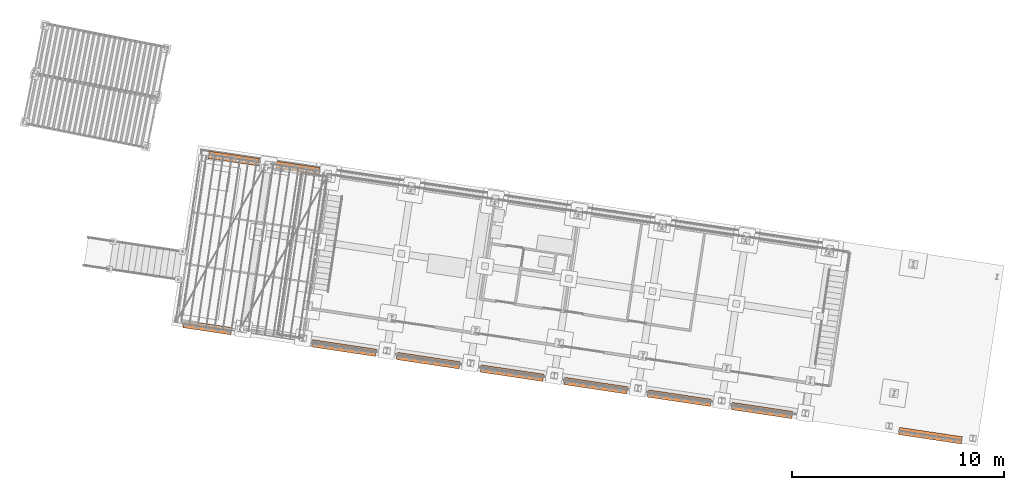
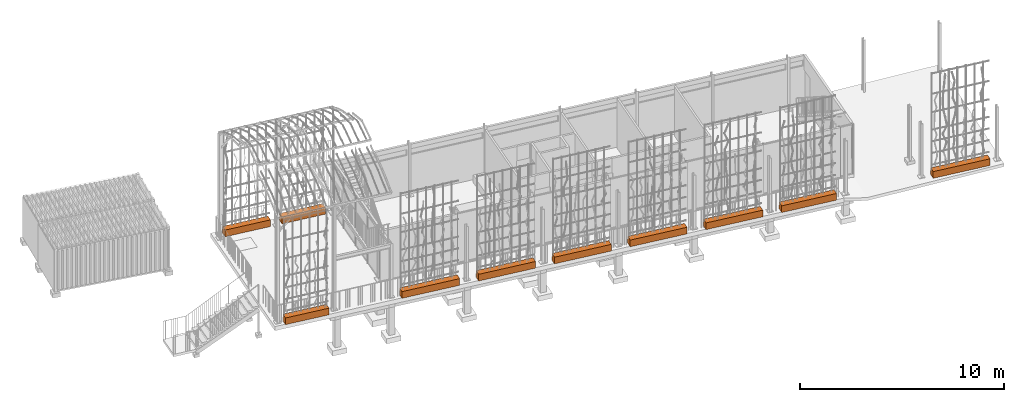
# One storey, part 142 of 142: 10 proxies, 1 element without a shape of its own.
"""IFC4 building model written with IfcOpenShell, lengths in metres."""

from ifc_helpers import new_model, si_unit, direction, frame, origin_with_axes, place, context, subcontext, project, spatial, polyline, outline, extrude, material, element, aggregate, save


model = new_model("IFC4")

# Units and contexts
model_context = context("Model", 3, precision=1e-05, world=origin_with_axes(), true_north=direction((0.0, 1.0)))
body_context = subcontext(model_context, "Body", "Model", "MODEL_VIEW")
ifc_project = project(units=[si_unit("AREAUNIT", "SQUARE_METRE"), si_unit("VOLUMEUNIT", "CUBIC_METRE"), si_unit("LENGTHUNIT", "METRE")], contexts=[model_context])

# Site, building, storey
site_placement = place(None, origin_with_axes())
site = spatial("IfcSite", under=ifc_project, at=site_placement, Name="Lares · Rua das Mercês · artigo 4771")
building_placement = place(site_placement, frame((15.0, 9.7, 14.65), z_axis=(0.0, 0.0, 1.0), x_axis=(0.989015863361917, -0.147809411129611, 0.0)))
building = spatial("IfcBuilding", under=site, at=building_placement, Name="Casa Sobreposta")
storey_placement = place(building_placement, origin_with_axes())
storey = spatial("IfcBuildingStorey", under=building, at=storey_placement, Name="00 · Habitação e estacionamento", Elevation=14.65)

# Assembly, proxies
assembly_placement = place(storey_placement, origin_with_axes())
assembly = element("IfcElementAssembly", 1, at=assembly_placement, inside=storey, Name="Fachada sul e pátio · estrutura e trepadeiras", ObjectType="LIVING_SHADE_TRELLIS", PredefinedType="USERDEFINED")
ifc_material = material(Name="Betão armado / Stahlbeton", Category="concrete")
proxy_1_placement = place(assembly_placement, frame((0.0, 0.0, -0.04), z_axis=(0.0, 0.0, 1.0), x_axis=(1.0, 0.0, 0.0)))
proxy_1 = element("IfcBuildingElementProxy", 2, at=proxy_1_placement, material=ifc_material, Name="Trepadeiras · floreira", ObjectType="Trepadeiras · floreira", PredefinedType="USERDEFINED", context=body_context, shape_type="SweptSolid", body=[
    extrude(outline(polyline([(-3.4, -1.785), (-3.4, -1.435), (-5.7, -1.435), (-5.7, -1.785), (-3.4, -1.785)])), origin_with_axes(), (0.0, 0.0, 1.0), 0.4),
])
proxy_2_placement = place(assembly_placement, frame((0.0, 0.0, -0.04), z_axis=(0.0, 0.0, 1.0), x_axis=(1.0, 0.0, 0.0)))
proxy_2 = element("IfcBuildingElementProxy", 3, at=proxy_2_placement, material=ifc_material, Name="Trepadeiras · floreira", ObjectType="Trepadeiras · floreira", PredefinedType="USERDEFINED", context=body_context, shape_type="SweptSolid", body=[
    extrude(outline(polyline([(3.5, -1.785), (3.5, -1.435), (0.45, -1.435), (0.45, -1.785), (3.5, -1.785)])), origin_with_axes(), (0.0, 0.0, 1.0), 0.4),
])
proxy_3_placement = place(assembly_placement, frame((0.0, 0.0, -0.04), z_axis=(0.0, 0.0, 1.0), x_axis=(1.0, 0.0, 0.0)))
proxy_3 = element("IfcBuildingElementProxy", 4, at=proxy_3_placement, material=ifc_material, Name="Trepadeiras · floreira", ObjectType="Trepadeiras · floreira", PredefinedType="USERDEFINED", context=body_context, shape_type="SweptSolid", body=[
    extrude(outline(polyline([(7.5, -1.785), (7.5, -1.435), (4.5, -1.435), (4.5, -1.785), (7.5, -1.785)])), origin_with_axes(), (0.0, 0.0, 1.0), 0.4),
])
proxy_4_placement = place(assembly_placement, frame((0.0, 0.0, -0.04), z_axis=(0.0, 0.0, 1.0), x_axis=(1.0, 0.0, 0.0)))
proxy_4 = element("IfcBuildingElementProxy", 5, at=proxy_4_placement, material=ifc_material, Name="Trepadeiras · floreira", ObjectType="Trepadeiras · floreira", PredefinedType="USERDEFINED", context=body_context, shape_type="SweptSolid", body=[
    extrude(outline(polyline([(11.5, -1.785), (11.5, -1.435), (8.5, -1.435), (8.5, -1.785), (11.5, -1.785)])), origin_with_axes(), (0.0, 0.0, 1.0), 0.4),
])
proxy_5_placement = place(assembly_placement, frame((0.0, 0.0, -0.04), z_axis=(0.0, 0.0, 1.0), x_axis=(1.0, 0.0, 0.0)))
proxy_5 = element("IfcBuildingElementProxy", 6, at=proxy_5_placement, material=ifc_material, Name="Trepadeiras · floreira", ObjectType="Trepadeiras · floreira", PredefinedType="USERDEFINED", context=body_context, shape_type="SweptSolid", body=[
    extrude(outline(polyline([(15.5, -1.785), (15.5, -1.435), (12.5, -1.435), (12.5, -1.785), (15.5, -1.785)])), origin_with_axes(), (0.0, 0.0, 1.0), 0.4),
])
proxy_6_placement = place(assembly_placement, frame((0.0, 0.0, -0.04), z_axis=(0.0, 0.0, 1.0), x_axis=(1.0, 0.0, 0.0)))
proxy_6 = element("IfcBuildingElementProxy", 7, at=proxy_6_placement, material=ifc_material, Name="Trepadeiras · floreira", ObjectType="Trepadeiras · floreira", PredefinedType="USERDEFINED", context=body_context, shape_type="SweptSolid", body=[
    extrude(outline(polyline([(19.5, -1.785), (19.5, -1.435), (16.5, -1.435), (16.5, -1.785), (19.5, -1.785)])), origin_with_axes(), (0.0, 0.0, 1.0), 0.4),
])
proxy_7_placement = place(assembly_placement, frame((0.0, 0.0, -0.04), z_axis=(0.0, 0.0, 1.0), x_axis=(1.0, 0.0, 0.0)))
proxy_7 = element("IfcBuildingElementProxy", 8, at=proxy_7_placement, material=ifc_material, Name="Trepadeiras · floreira", ObjectType="Trepadeiras · floreira", PredefinedType="USERDEFINED", context=body_context, shape_type="SweptSolid", body=[
    extrude(outline(polyline([(23.4, -1.785), (23.4, -1.435), (20.5, -1.435), (20.5, -1.785), (23.4, -1.785)])), origin_with_axes(), (0.0, 0.0, 1.0), 0.4),
])
proxy_8_placement = place(assembly_placement, frame((0.0, 0.0, -0.04), z_axis=(0.0, 0.0, 1.0), x_axis=(1.0, 0.0, 0.0)))
proxy_8 = element("IfcBuildingElementProxy", 9, at=proxy_8_placement, material=ifc_material, Name="Trepadeiras · floreira", ObjectType="Trepadeiras · floreira", PredefinedType="USERDEFINED", context=body_context, shape_type="SweptSolid", body=[
    extrude(outline(polyline([(31.5, -1.785), (31.5, -1.435), (28.5, -1.435), (28.5, -1.785), (31.5, -1.785)])), origin_with_axes(), (0.0, 0.0, 1.0), 0.4),
])
proxy_9_placement = place(assembly_placement, frame((0.0, 0.0, -0.04), z_axis=(0.0, 0.0, 1.0), x_axis=(1.0, 0.0, 0.0)))
proxy_9 = element("IfcBuildingElementProxy", 10, at=proxy_9_placement, material=ifc_material, Name="Trepadeiras · floreira", ObjectType="Trepadeiras · floreira", PredefinedType="USERDEFINED", context=body_context, shape_type="SweptSolid", body=[
    extrude(outline(polyline([(-3.3, 6.305), (-3.3, 6.655), (-5.7, 6.655), (-5.7, 6.305), (-3.3, 6.305)])), origin_with_axes(), (0.0, 0.0, 1.0), 0.4),
])
proxy_10_placement = place(assembly_placement, frame((0.0, 0.0, -0.04), z_axis=(0.0, 0.0, 1.0), x_axis=(1.0, 0.0, 0.0)))
proxy_10 = element("IfcBuildingElementProxy", 11, at=proxy_10_placement, material=ifc_material, Name="Trepadeiras · floreira", ObjectType="Trepadeiras · floreira", PredefinedType="USERDEFINED", context=body_context, shape_type="SweptSolid", body=[
    extrude(outline(polyline([(-0.4, 6.305), (-0.4, 6.655), (-2.7, 6.655), (-2.7, 6.305), (-0.4, 6.305)])), origin_with_axes(), (0.0, 0.0, 1.0), 0.4),
])
aggregate(assembly, [proxy_1, proxy_2, proxy_3, proxy_4, proxy_5, proxy_6, proxy_7, proxy_8, proxy_9, proxy_10])

save(model, "model.ifc")
